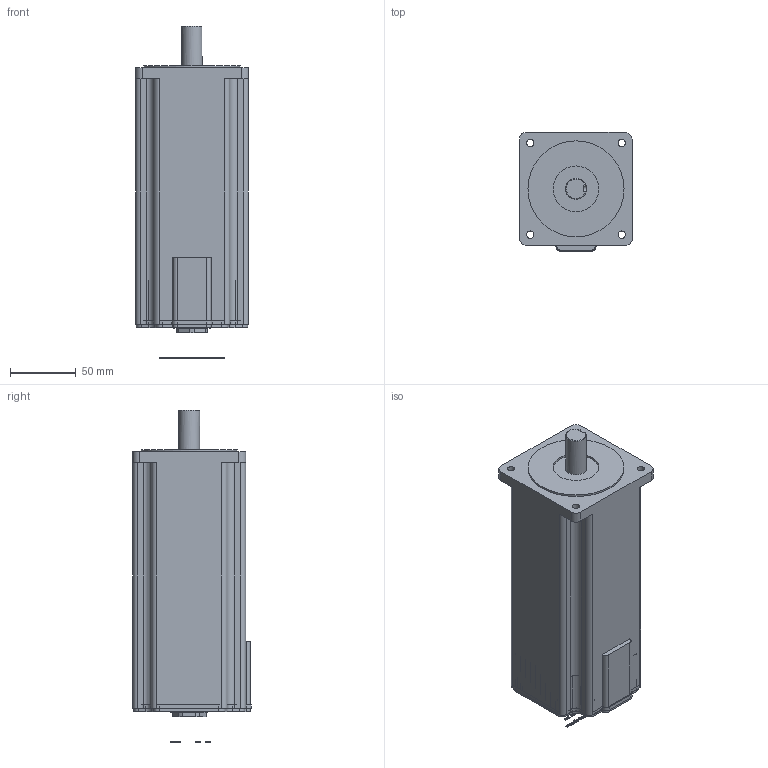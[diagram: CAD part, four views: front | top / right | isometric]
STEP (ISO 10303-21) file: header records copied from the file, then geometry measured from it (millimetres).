
FILE_DESCRIPTION(/* description */ ('Alibre Inc.'),/* implementation_level */ '2;1');
FILE_NAME(/* name */ 'export0',/* time_stamp */ '2008-02-05T14:21:07-08:00',/* author */ (''),/* organization */ (''),/* preprocessor_version */ 'ST-DEVELOPER v10',/* originating_system */ 'Alibre',/* authorisation */ '');
FILE_SCHEMA (('ALIBRE_SCHEMA','CONFIG_CONTROL_DESIGN'));
Length unit declared in the file: centimetre
Products named in the file (9): ID_1
Bounding box: 86.11 x 90.42 x 252.48 mm (x, y, z)
Volume: 1341536.1 mm3; surface area: 132847.2 mm2
Topology: 63 solids, 64 shells, 1451 faces, 3910 edges, 2572 vertices
Faces by surface type: plane 696, bspline 573, cylinder 165, cone 15, torus 2
Full cylindrical faces by diameter (mm): 1.216 x14, 2.286 x6, 5.537 x4, 9.525 x2, 14.732 x1, 15.24 x1, 15.875 x1, 16 x1, 19.99 x1, 21.996 x2, 23 x1, 24.435 x1, 25.4 x2, 27.94 x1, 27.991 x1, 34.798 x1, 73.025 x1
Entity records: 79891 total; most frequent: CARTESIAN_POINT 19555, ORIENTED_EDGE 7780, DIRECTION 5176, CONSTRAINTPAIRUV 4993, EDGE_CURVE 3859, PERSISTANTTOPOLOGYATTRIBUTE 3539, VECTOR 3343, REFERENCEPOINTUV 3165
